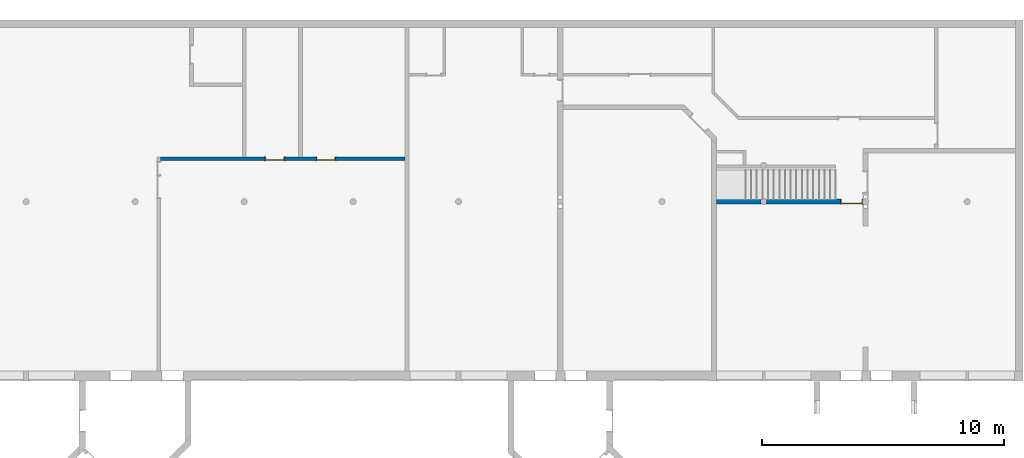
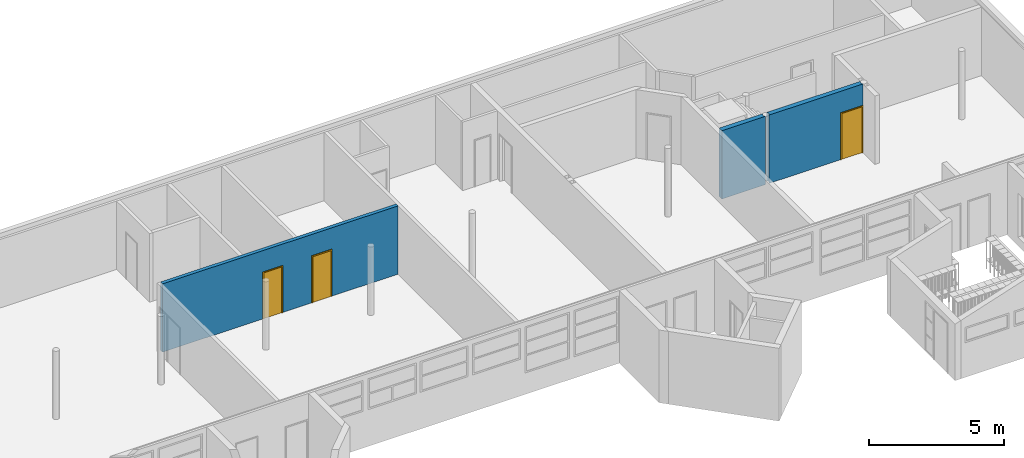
# One storey, part 11 of 25: 3 doors, 2 walls, 3 openings.
"""IFC2X3 building model written with IfcOpenShell, lengths in millimetres."""

from ifc_helpers import new_model, entity, si_unit, converted_unit, derived_unit, money_unit, direction, frame, origin_with_axes, place, context, subcontext, project, spatial, faceted_brep, source, transform, mapped, material, type_object, element, fill, save


model = new_model("IFC2X3")

# Units and contexts
model_context = context("Model", 3, precision=0.01, world=origin_with_axes(), true_north=direction((0.0, 1.0)))
body_context = subcontext(model_context, "Body", "Model", "MODEL_VIEW")
ifc_project = project(units=[si_unit("LENGTHUNIT", "METRE", prefix="MILLI"), si_unit("AREAUNIT", "SQUARE_METRE"), si_unit("VOLUMEUNIT", "CUBIC_METRE"), converted_unit("PLANEANGLEUNIT", "DEGREE", entity("IfcPlaneAngleMeasure", 0.0174532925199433), si_unit("PLANEANGLEUNIT", "RADIAN"), dimensions=[0, 0, 0, 0, 0, 0, 0]), money_unit("USD"), converted_unit("TIMEUNIT", "Year", entity("IfcTimeMeasure", 31557600.0), si_unit("TIMEUNIT", "SECOND"), dimensions=[0, 0, 1, 0, 0, 0, 0]), si_unit("MASSUNIT", "GRAM", prefix="KILO"), si_unit("THERMODYNAMICTEMPERATUREUNIT", "DEGREE_CELSIUS"), si_unit("LUMINOUSINTENSITYUNIT", "LUMEN"), si_unit("ENERGYUNIT", "JOULE", prefix="MEGA"), derived_unit("THERMALCONDUCTANCEUNIT", [(si_unit("POWERUNIT", "WATT"), 1), (si_unit("LENGTHUNIT", "METRE"), -1), (si_unit("THERMODYNAMICTEMPERATUREUNIT", "KELVIN"), -1)]), derived_unit("SPECIFICHEATCAPACITYUNIT", [(si_unit("ENERGYUNIT", "JOULE"), 1), (si_unit("MASSUNIT", "GRAM", prefix="KILO"), -1), (si_unit("THERMODYNAMICTEMPERATUREUNIT", "KELVIN"), -1)]), derived_unit("MASSDENSITYUNIT", [(si_unit("MASSUNIT", "GRAM", prefix="KILO"), 1), (si_unit("VOLUMEUNIT", "CUBIC_METRE"), -1)])], contexts=[model_context])

# Site, building, storey
site_placement = place(None, origin_with_axes())
site = spatial("IfcSite", under=ifc_project, at=site_placement, Name="Site", CompositionType="ELEMENT")
building_placement = place(site_placement, origin_with_axes())
building = spatial("IfcBuilding", under=site, at=building_placement, Name="Building", CompositionType="ELEMENT")
storey_placement = place(building_placement, origin_with_axes())
storey = spatial("IfcBuildingStorey", under=building, at=storey_placement, Name="U ETG", CompositionType="ELEMENT", Elevation=0.0)

# Wall, openings, doors
ifc_material = material(Name="GENERIC - INTERNAL FILLER")
wall_type_1 = type_object("IfcWallType", Name="GENERIC - INTERNAL FILLER 150", PredefinedType="NOTDEFINED")
wall_1_placement = place(storey_placement, frame((37050.0, 16199.5709291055, 0.0), z_axis=(0.0, 0.0, 1.0), x_axis=(1.0, 0.0, 0.0)))
wall_1 = element("IfcWall", 1, at=wall_1_placement, inside=storey, type_object=wall_type_1, material=ifc_material, Name="SW - 001", context=body_context, shape_type="Brep", body=[
    faceted_brep([(6427.551484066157, 150.0000000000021, 2100.0), (6427.551484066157, 150.0000000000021, 0.0), (5116.371182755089, 150.0000000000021, 0.0), (5116.371182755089, 150.0000000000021, 2100.0), (4316.371182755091, 150.0000000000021, 2100.0), (4316.371182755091, 149.9999999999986, 0.0), (0.0, 149.9999999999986, 0.0), (0.0, 149.9999999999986, 3100.0), (10100.35609034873, 150.0000000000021, 3100.0), (10100.35609034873, 150.0000000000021, 0.0), (7227.551484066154, 150.0000000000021, 0.0), (7227.551484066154, 150.0000000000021, 2100.0), (6427.551484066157, 0.0, 2100.0), (6427.551484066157, 0.0, 0.0), (5116.371182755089, 0.0, 0.0), (5116.371182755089, 0.0, 2100.0), (4316.371182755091, 0.0, 2100.0), (4316.371182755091, 0.0, 0.0), (0.0, 0.0, 0.0), (0.0, 0.0, 3100.0), (10100.35609034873, 0.0, 3100.0), (10100.35609034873, 0.0, 0.0), (7227.551484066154, 0.0, 0.0), (7227.551484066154, 0.0, 2100.0)], [[[0, 1, 2, 3, 4, 5, 6, 7, 8, 9, 10, 11]], [[1, 0, 12, 13]], [[1, 13, 14, 2]], [[2, 14, 15, 3]], [[3, 15, 16, 4]], [[4, 16, 17, 5]], [[17, 18, 6, 5]], [[18, 19, 7, 6]], [[7, 19, 20, 8]], [[8, 20, 21, 9]], [[22, 10, 9, 21]], [[11, 10, 22, 23]], [[0, 11, 23, 12]], [[23, 22, 21, 20, 19, 18, 17, 16, 15, 14, 13, 12]]]),
])
opening_1_placement = place(wall_1_placement, frame((4716.37118275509, 0.0, 0.0), z_axis=(0.0, 0.0, 1.0), x_axis=(1.0, 0.0, 0.0)))
opening_1 = element("IfcOpeningElement", 2, at=opening_1_placement, cuts=wall_1, Name="DOO - 002", context=body_context, shape_type="Brep", body=[
    faceted_brep([(-399.9999999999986, 0.0, 2100.0), (399.9999999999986, 0.0, 2100.0), (399.9999999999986, 149.9999999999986, 2100.0), (-399.9999999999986, 149.9999999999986, 2100.0), (399.9999999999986, 0.0, 0.0), (-399.9999999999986, 0.0, 0.0), (-436.9999999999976, 0.0, 0.0), (-436.9999999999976, 0.0, 2137.0), (436.9999999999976, 0.0, 2137.0), (436.9999999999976, 0.0, 0.0), (399.9999999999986, 149.9999999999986, 0.0), (436.9999999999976, 149.9999999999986, 0.0), (436.9999999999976, 149.9999999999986, 2137.0), (-436.9999999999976, 150.0000000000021, 2137.0), (-436.9999999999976, 149.9999999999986, 0.0), (-399.9999999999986, 149.9999999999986, 0.0), (-399.9999999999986, -1.000000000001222, 0.0), (-436.9999999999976, -1.000000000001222, 0.0), (-436.9999999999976, -1.000000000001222, 2137.0), (436.9999999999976, -1.000000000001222, 2137.0), (436.9999999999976, -1.000000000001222, 0.0), (399.9999999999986, -1.000000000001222, 0.0), (-399.9999999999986, 151.000000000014, 0.0), (399.9999999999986, 151.000000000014, 0.0), (436.9999999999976, 151.000000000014, 0.0), (436.9999999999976, 151.000000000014, 2137.0), (-436.9999999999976, 151.0000000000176, 2137.0), (-436.9999999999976, 151.000000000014, 0.0), (-399.9999999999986, -1.000000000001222, 2100.0), (399.9999999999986, -1.000000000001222, 2100.0)], [[[0, 1, 2, 3]], [[4, 1, 0, 5, 6, 7, 8, 9]], [[1, 4, 10, 2]], [[3, 2, 10, 11, 12, 13, 14, 15]], [[5, 0, 3, 15]], [[5, 16, 17, 6]], [[7, 6, 17, 18]], [[8, 7, 18, 19]], [[9, 8, 19, 20]], [[21, 4, 9, 20]], [[16, 5, 15, 22, 23, 10, 4, 21]], [[10, 23, 24, 11]], [[12, 11, 24, 25]], [[13, 12, 25, 26]], [[14, 13, 26, 27]], [[22, 15, 14, 27]], [[28, 29, 21, 20, 19, 18, 17, 16]], [[23, 22, 27, 26, 25, 24]], [[28, 16, 21, 29]]]),
])
opening_2_placement = place(wall_1_placement, frame((6827.551484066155, 0.0, 0.0), z_axis=(0.0, 0.0, 1.0), x_axis=(1.0, 0.0, 0.0)))
opening_2 = element("IfcOpeningElement", 3, at=opening_2_placement, cuts=wall_1, Name="DOO - 002", context=body_context, shape_type="Brep", body=[
    faceted_brep([(-399.9999999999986, 0.0, 2100.0), (399.9999999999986, 0.0, 2100.0), (399.9999999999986, 149.9999999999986, 2100.0), (-399.9999999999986, 149.9999999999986, 2100.0), (399.9999999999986, 0.0, 0.0), (-399.9999999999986, 0.0, 0.0), (-436.9999999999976, 0.0, 0.0), (-436.9999999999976, 0.0, 2137.0), (436.9999999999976, 0.0, 2137.0), (436.9999999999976, 0.0, 0.0), (399.9999999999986, 149.9999999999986, 0.0), (436.9999999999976, 149.9999999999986, 0.0), (436.9999999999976, 149.9999999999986, 2137.0), (-436.9999999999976, 150.0000000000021, 2137.0), (-436.9999999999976, 149.9999999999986, 0.0), (-399.9999999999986, 149.9999999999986, 0.0), (-399.9999999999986, -1.000000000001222, 0.0), (-436.9999999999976, -1.000000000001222, 0.0), (-436.9999999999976, -1.000000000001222, 2137.0), (436.9999999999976, -1.000000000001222, 2137.0), (436.9999999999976, -1.000000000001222, 0.0), (399.9999999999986, -1.000000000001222, 0.0), (-399.9999999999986, 151.0000000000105, 0.0), (399.9999999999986, 151.0000000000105, 0.0), (436.9999999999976, 151.0000000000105, 0.0), (436.9999999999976, 151.0000000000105, 2137.0), (-436.9999999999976, 151.000000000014, 2137.0), (-436.9999999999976, 151.0000000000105, 0.0), (-399.9999999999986, -1.000000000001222, 2100.0), (399.9999999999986, -1.000000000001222, 2100.0)], [[[0, 1, 2, 3]], [[4, 1, 0, 5, 6, 7, 8, 9]], [[1, 4, 10, 2]], [[3, 2, 10, 11, 12, 13, 14, 15]], [[5, 0, 3, 15]], [[5, 16, 17, 6]], [[7, 6, 17, 18]], [[8, 7, 18, 19]], [[9, 8, 19, 20]], [[21, 4, 9, 20]], [[16, 5, 15, 22, 23, 10, 4, 21]], [[10, 23, 24, 11]], [[12, 11, 24, 25]], [[13, 12, 25, 26]], [[14, 13, 26, 27]], [[22, 15, 14, 27]], [[28, 29, 21, 20, 19, 18, 17, 16]], [[23, 22, 27, 26, 25, 24]], [[28, 16, 21, 29]]]),
])
door_style_1 = type_object("IfcDoorStyle", Name="Dør", ConstructionType="NOTDEFINED", OperationType="SINGLE_SWING_LEFT", ParameterTakesPrecedence=False, Sizeable=False)
shared_shape_1 = source(origin_with_axes(), body_context, "Body", "Brep", [
    faceted_brep([(400.0, -115.0, 0.0), (400.0, -150.0, 0.0), (375.0, -150.0, 0.0), (375.0, -115.0, 0.0), (400.0, -115.0000000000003, 2100.0), (400.0, -150.0000000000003, 2100.0), (375.0, -150.0000000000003, 2075.0), (375.0, -115.0000000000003, 2075.0)], [[[0, 1, 2, 3]], [[4, 5, 1, 0]], [[1, 5, 6, 2]], [[3, 2, 6, 7]], [[0, 3, 7, 4]], [[7, 6, 5, 4]]]),
    faceted_brep([(-400.0, -115.0000000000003, 2100.0), (-400.0, -150.0000000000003, 2100.0), (-375.0, -150.0000000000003, 2075.0), (-375.0, -115.0000000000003, 2075.0), (-400.0, -115.0, 0.0), (-400.0, -150.0, 0.0), (-375.0, -150.0, 0.0), (-375.0, -115.0, 0.0)], [[[0, 1, 2, 3]], [[4, 5, 1, 0]], [[1, 5, 6, 2]], [[3, 2, 6, 7]], [[0, 3, 7, 4]], [[7, 6, 5, 4]]]),
    faceted_brep([(375.0, -115.0000000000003, 2075.0), (375.0, -150.0000000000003, 2075.0), (-375.0, -150.0000000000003, 2075.0), (-375.0, -115.0000000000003, 2075.0), (400.0, -115.0000000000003, 2100.0), (400.0, -150.0000000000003, 2100.0), (-400.0, -150.0000000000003, 2100.0), (-400.0, -115.0000000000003, 2100.0)], [[[0, 1, 2, 3]], [[4, 5, 1, 0]], [[1, 5, 6, 2]], [[3, 2, 6, 7]], [[0, 3, 7, 4]], [[7, 6, 5, 4]]]),
    faceted_brep([(437.0, -169.0, 0.0), (387.0, -169.0, 0.0), (387.0, -150.0, 0.0), (437.0, -150.0, 0.0), (437.0, -169.0000000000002, 2137.0), (387.0, -169.0000000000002, 2087.0), (387.0, -150.0000000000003, 2087.0), (437.0, -150.0000000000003, 2137.0)], [[[0, 1, 2, 3]], [[0, 4, 5, 1]], [[1, 5, 6, 2]], [[3, 2, 6, 7]], [[4, 0, 3, 7]], [[5, 4, 7, 6]]]),
    faceted_brep([(-437.0, -169.0000000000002, 2137.0), (-387.0, -169.0000000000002, 2087.0), (-387.0, -150.0000000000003, 2087.0), (-437.0, -150.0000000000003, 2137.0), (-437.0, -169.0, 0.0), (-387.0, -169.0, 0.0), (-387.0, -150.0, 0.0), (-437.0, -150.0, 0.0)], [[[0, 1, 2, 3]], [[0, 4, 5, 1]], [[1, 5, 6, 2]], [[3, 2, 6, 7]], [[4, 0, 3, 7]], [[5, 4, 7, 6]]]),
    faceted_brep([(437.0, -169.0000000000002, 2137.0), (387.0, -169.0000000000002, 2087.0), (387.0, -150.0000000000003, 2087.0), (437.0, -150.0000000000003, 2137.0), (-437.0, -169.0000000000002, 2137.0), (-387.0, -169.0000000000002, 2087.0), (-387.0, -150.0000000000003, 2087.0), (-437.0, -150.0000000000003, 2137.0)], [[[0, 1, 2, 3]], [[0, 4, 5, 1]], [[1, 5, 6, 2]], [[3, 2, 6, 7]], [[4, 0, 3, 7]], [[5, 4, 7, 6]]]),
    faceted_brep([(437.0, 19.0, 0.0), (437.0, 0.0, 0.0), (387.0, 0.0, 0.0), (387.0, 19.0, 0.0), (437.0, 18.99999999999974, 2137.0), (437.0, 0.0, 2137.0), (387.0, 0.0, 2087.0), (387.0, 18.99999999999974, 2087.0)], [[[0, 1, 2, 3]], [[4, 5, 1, 0]], [[1, 5, 6, 2]], [[3, 2, 6, 7]], [[0, 3, 7, 4]], [[7, 6, 5, 4]]]),
    faceted_brep([(-437.0, 18.99999999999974, 2137.0), (-437.0, 0.0, 2137.0), (-387.0, 0.0, 2087.0), (-387.0, 18.99999999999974, 2087.0), (-437.0, 19.0, 0.0), (-437.0, 0.0, 0.0), (-387.0, 0.0, 0.0), (-387.0, 19.0, 0.0)], [[[0, 1, 2, 3]], [[4, 5, 1, 0]], [[1, 5, 6, 2]], [[3, 2, 6, 7]], [[0, 3, 7, 4]], [[7, 6, 5, 4]]]),
    faceted_brep([(437.0000000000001, 18.99999999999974, 2137.0), (437.0000000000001, 0.0, 2137.0), (387.0, 0.0, 2087.0), (387.0, 18.99999999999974, 2087.0), (-437.0000000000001, 18.99999999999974, 2137.0), (-437.0000000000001, 0.0, 2137.0), (-387.0, 0.0, 2087.0), (-387.0, 18.99999999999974, 2087.0)], [[[0, 1, 2, 3]], [[4, 5, 1, 0]], [[1, 5, 6, 2]], [[3, 2, 6, 7]], [[0, 3, 7, 4]], [[7, 6, 5, 4]]]),
    faceted_brep([(400.0, 0.0, 0.0), (400.0, -115.0, 0.0), (360.0000000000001, -115.0, 0.0), (360.0000000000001, 0.0, 0.0), (400.0, 0.0, 2060.0), (400.0, -115.0, 2060.0), (360.0000000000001, -115.0, 2060.0), (360.0000000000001, 0.0, 2060.0)], [[[0, 1, 2, 3]], [[4, 5, 1, 0]], [[1, 5, 6, 2]], [[3, 2, 6, 7]], [[0, 3, 7, 4]], [[7, 6, 5, 4]]]),
    faceted_brep([(-400.0, 0.0, 0.0), (-400.0, -115.0, 0.0), (-400.0, -115.0, 2060.0), (-400.0, 0.0, 2060.0), (-360.0000000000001, 0.0, 0.0), (-360.0000000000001, -115.0, 0.0), (-360.0000000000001, -115.0, 2060.0), (-360.0000000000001, 0.0, 2060.0)], [[[0, 1, 2, 3]], [[4, 5, 1, 0]], [[1, 5, 6, 2]], [[3, 2, 6, 7]], [[0, 3, 7, 4]], [[7, 6, 5, 4]]]),
    faceted_brep([(400.0, 0.0, 2100.0), (400.0, -115.0, 2100.0), (400.0, -115.0, 2060.0), (400.0, 0.0, 2060.0), (-400.0, 0.0, 2100.0), (-400.0, -115.0, 2100.0), (-400.0, -115.0, 2060.0), (-360.0000000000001, -115.0, 2060.0), (360.0000000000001, -115.0, 2060.0), (360.0000000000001, 0.0, 2060.0), (-360.0000000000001, 0.0, 2060.0), (-400.0, 0.0, 2060.0)], [[[0, 1, 2, 3]], [[4, 5, 1, 0]], [[1, 5, 6, 7, 8, 2]], [[3, 2, 8, 9]], [[0, 3, 9, 10, 11, 4]], [[11, 6, 5, 4]], [[10, 7, 6, 11]], [[9, 8, 7, 10]]]),
    faceted_brep([(-359.9999999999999, 0.0, 0.0), (360.0000000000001, 0.0, 0.0), (360.0000000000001, -40.0, 0.0), (-359.9999999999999, -40.0, 0.0), (-359.9999999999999, 0.0, 2060.0), (360.0000000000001, 0.0, 2060.0), (360.0000000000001, -40.00000000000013, 2060.0), (-359.9999999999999, -40.00000000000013, 2060.0)], [[[0, 1, 2, 3]], [[0, 4, 5, 1]], [[1, 5, 6, 2]], [[3, 2, 6, 7]], [[4, 0, 3, 7]], [[5, 4, 7, 6]]]),
])
door_1_placement = place(opening_1_placement, frame((399.9999999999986, 0.0, 0.0), z_axis=(0.0, 0.0, 1.0), x_axis=(-1.0, 0.0, 0.0)))
door_1 = element("IfcDoor", 4, at=door_1_placement, inside=storey, type_object=door_style_1, Name="DOO - 002", ObjectType="DOOR", OverallHeight=2100.0, OverallWidth=800.0, context=body_context, shape_type="MappedRepresentation", body=[
    mapped(shared_shape_1, transform((399.9999999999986, 0.0, 0.0))),
])
fill(opening_1, door_1)
door_2_placement = place(opening_2_placement, frame((399.9999999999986, 0.0, 0.0), z_axis=(0.0, 0.0, 1.0), x_axis=(-1.0, 0.0, 0.0)))
door_2 = element("IfcDoor", 5, at=door_2_placement, inside=storey, type_object=door_style_1, Name="DOO - 002", ObjectType="DOOR", OverallHeight=2100.0, OverallWidth=800.0, context=body_context, shape_type="MappedRepresentation", body=[
    mapped(shared_shape_1, transform((399.9999999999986, 0.0, 0.0))),
])
fill(opening_2, door_2)

# Wall, opening, door
wall_type_2 = type_object("IfcWallType", Name="GENERIC - INTERNAL FILLER 200", PredefinedType="NOTDEFINED")
wall_2_placement = place(storey_placement, frame((60003.50288425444, 14600.0, 0.0), z_axis=(0.0, 0.0, 1.0), x_axis=(1.0, 0.0, 0.0)))
wall_2 = element("IfcWall", 6, at=wall_2_placement, inside=storey, type_object=wall_type_2, material=ifc_material, Name="SW - 001", context=body_context, shape_type="Brep", body=[
    faceted_brep([(1868.560890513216, -2.27106469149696, 0.0), (1871.976295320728, -0.1250236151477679, 0.0), (1871.976295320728, -0.1250236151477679, 3100.0), (1868.560890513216, -2.27106469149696, 3100.0), (1856.497115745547, 0.0, 0.0), (1856.497115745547, -0.1250236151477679, 0.0), (1848.768180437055, -22.06377476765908, 0.0), (1833.876007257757, -45.76453261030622, 0.0), (1824.631126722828, -72.18488325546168, 0.0), (1821.497115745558, -100.0000000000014, 0.0), (1824.631126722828, -127.8151167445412, 0.0), (1833.876007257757, -154.2354673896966, 0.0), (1848.768180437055, -177.9362252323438, 0.0), (1868.560890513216, -197.7289353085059, 0.0), (1872.175269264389, -199.9999999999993, 0.0), (0.0, -199.9999999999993, 0.0), (0.0, 0.0, 0.0), (1856.497115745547, -0.1250236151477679, 3100.0), (1856.497115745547, 0.0, 3100.0), (0.0, 0.0, 3100.0), (0.0, -199.9999999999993, 3100.0), (1872.175269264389, -199.9999999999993, 3100.0), (1868.560890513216, -197.7289353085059, 3100.0), (1848.768180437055, -177.9362252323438, 3100.0), (1833.876007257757, -154.2354673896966, 3100.0), (1824.631126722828, -127.8151167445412, 3100.0), (1821.497115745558, -100.0000000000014, 3100.0), (1824.631126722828, -72.18488325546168, 3100.0), (1833.876007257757, -45.76453261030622, 3100.0), (1848.768180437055, -22.06377476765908, 3100.0)], [[[0, 1, 2, 3]], [[4, 5, 1, 0, 6, 7, 8, 9, 10, 11, 12, 13, 14, 15, 16]], [[5, 17, 2, 1]], [[2, 17, 18, 19, 20, 21, 22, 23, 24, 25, 26, 27, 28, 29, 3]], [[0, 3, 29, 6]], [[5, 4, 18, 17]], [[6, 29, 28, 7]], [[7, 28, 27, 8]], [[8, 27, 26, 9]], [[9, 26, 25, 10]], [[10, 25, 24, 11]], [[11, 24, 23, 12]], [[12, 23, 22, 13]], [[13, 22, 21, 14]], [[15, 14, 21, 20]], [[16, 15, 20, 19]], [[19, 18, 4, 16]]]),
    faceted_brep([(5125.92099232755, 0.0, 2100.0), (5125.92099232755, 0.0, 0.0), (2036.497115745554, 0.0, 0.0), (2036.497115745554, 0.0, 3100.0), (6046.497115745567, 0.0, 3100.0), (6046.497115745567, 0.0, 0.0), (6025.920992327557, 0.0, 0.0), (6025.920992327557, 0.0, 2100.0), (5125.92099232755, -199.9999999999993, 2100.0), (5125.92099232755, -199.9999999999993, 0.0), (2020.818962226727, -199.9999999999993, 0.0), (2024.4333409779, -197.7289353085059, 0.0), (2044.226051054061, -177.9362252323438, 0.0), (2059.118224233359, -154.2354673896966, 0.0), (2068.363104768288, -127.8151167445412, 0.0), (2071.497115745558, -100.0000000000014, 0.0), (2068.363104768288, -72.18488325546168, 0.0), (2059.118224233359, -45.76453261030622, 0.0), (2044.226051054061, -22.06377476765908, 0.0), (2024.4333409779, -2.27106469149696, 0.0), (2021.017936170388, -0.1250236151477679, 0.0), (2036.497115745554, -0.1250236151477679, 0.0), (2036.497115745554, -0.1250236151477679, 3100.0), (6033.87600725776, -45.76453261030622, 3100.0), (6046.497115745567, -25.67815351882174, 3100.0), (2021.017936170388, -0.1250236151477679, 3100.0), (2024.4333409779, -2.27106469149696, 3100.0), (2044.226051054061, -22.06377476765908, 3100.0), (2059.118224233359, -45.76453261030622, 3100.0), (2068.363104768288, -72.18488325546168, 3100.0), (2071.497115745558, -100.0000000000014, 3100.0), (2068.363104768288, -127.8151167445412, 3100.0), (2059.118224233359, -154.2354673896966, 3100.0), (2044.226051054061, -177.9362252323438, 3100.0), (2024.4333409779, -197.7289353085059, 3100.0), (2020.818962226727, -199.9999999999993, 3100.0), (6046.497115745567, -199.9999999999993, 3100.0), (6046.497115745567, -174.3218464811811, 3100.0), (6033.87600725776, -154.2354673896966, 3100.0), (6024.631126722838, -127.8151167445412, 3100.0), (6021.497115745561, -100.0000000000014, 3100.0), (6024.631126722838, -72.18488325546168, 3100.0), (6046.497115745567, -25.67815351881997, 0.0), (6025.920992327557, -68.49865914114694, 0.0), (6033.87600725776, -45.76453261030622, 0.0), (6025.920992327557, -68.49865914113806, 2100.0), (6024.631126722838, -72.18488325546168, 2100.0), (6021.497115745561, -100.0000000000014, 2100.0), (6024.631126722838, -127.8151167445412, 2100.0), (6025.920992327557, -131.5013408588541, 2100.0), (6025.920992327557, -199.9999999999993, 2100.0), (6025.920992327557, -199.9999999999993, 0.0), (6046.497115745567, -199.9999999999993, 0.0), (6046.497115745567, -174.321846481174, 0.0), (6033.87600725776, -154.2354673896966, 0.0), (6025.920992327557, -131.5013408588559, 0.0)], [[[0, 1, 2, 3, 4, 5, 6, 7]], [[1, 0, 8, 9]], [[1, 9, 10, 11, 12, 13, 14, 15, 16, 17, 18, 19, 20, 21, 2]], [[22, 3, 2, 21]], [[23, 24, 4, 3, 22, 25, 26, 27, 28, 29, 30, 31, 32, 33, 34, 35, 36, 37, 38, 39, 40, 41]], [[24, 42, 5, 4]], [[43, 6, 5, 42, 44]], [[7, 6, 43, 45]], [[0, 7, 45, 46, 47, 48, 49, 50, 8]], [[50, 51, 52, 36, 35, 10, 9, 8]], [[35, 34, 11, 10]], [[34, 33, 12, 11]], [[33, 32, 13, 12]], [[32, 31, 14, 13]], [[31, 30, 15, 14]], [[30, 29, 16, 15]], [[29, 28, 17, 16]], [[28, 27, 18, 17]], [[27, 26, 19, 18]], [[25, 20, 19, 26]], [[25, 22, 21, 20]], [[42, 24, 23, 44]], [[53, 37, 36, 52]], [[38, 37, 53, 54]], [[49, 48, 39, 38, 54, 55]], [[48, 47, 40, 39]], [[47, 46, 41, 40]], [[45, 43, 44, 23, 41, 46]], [[49, 55, 51, 50]], [[51, 55, 54, 53, 52]]]),
])
opening_3_placement = place(wall_2_placement, frame((5575.920992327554, 0.0, 0.0), z_axis=(0.0, 0.0, 1.0), x_axis=(1.0, 0.0, 0.0)))
opening_3 = element("IfcOpeningElement", 7, at=opening_3_placement, cuts=wall_2, Name="DOO - 002", context=body_context, shape_type="Brep", body=[
    faceted_brep([(-450.0000000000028, -199.9999999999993, 2100.0), (450.0000000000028, -199.9999999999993, 2100.0), (450.0000000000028, 0.0, 2100.0), (-450.0000000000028, 0.0, 2100.0), (450.0000000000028, -199.9999999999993, 0.0), (-450.0000000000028, -199.9999999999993, 0.0), (-486.9999999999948, -199.9999999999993, 0.0), (-486.9999999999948, -199.9999999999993, 2137.0), (486.9999999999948, -199.9999999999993, 2137.0), (486.9999999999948, -199.9999999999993, 0.0), (450.0000000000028, 0.0, 0.0), (486.9999999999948, 0.0, 0.0), (486.9999999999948, 0.0, 2137.0), (-486.9999999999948, 0.0, 2137.0), (-486.9999999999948, 0.0, 0.0), (-450.0000000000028, 0.0, 0.0), (-450.0000000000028, -200.9999999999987, 0.0), (-486.9999999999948, -200.9999999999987, 0.0), (-486.9999999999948, -200.9999999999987, 2137.0), (486.9999999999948, -200.9999999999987, 2137.0), (486.9999999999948, -200.9999999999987, 0.0), (450.0000000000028, -200.9999999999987, 0.0), (-450.0000000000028, 0.9999999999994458, 0.0), (450.0000000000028, 0.9999999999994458, 0.0), (486.9999999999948, 0.9999999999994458, 0.0), (486.9999999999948, 1.000000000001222, 2137.0), (-486.9999999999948, 1.000000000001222, 2137.0), (-486.9999999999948, 0.9999999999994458, 0.0), (-450.0000000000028, -200.9999999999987, 2100.0), (450.0000000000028, -200.9999999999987, 2100.0)], [[[0, 1, 2, 3]], [[4, 1, 0, 5, 6, 7, 8, 9]], [[1, 4, 10, 2]], [[3, 2, 10, 11, 12, 13, 14, 15]], [[5, 0, 3, 15]], [[5, 16, 17, 6]], [[7, 6, 17, 18]], [[8, 7, 18, 19]], [[9, 8, 19, 20]], [[21, 4, 9, 20]], [[16, 5, 15, 22, 23, 10, 4, 21]], [[10, 23, 24, 11]], [[12, 11, 24, 25]], [[13, 12, 25, 26]], [[14, 13, 26, 27]], [[22, 15, 14, 27]], [[28, 29, 21, 20, 19, 18, 17, 16]], [[23, 22, 27, 26, 25, 24]], [[28, 16, 21, 29]]]),
])
door_style_2 = type_object("IfcDoorStyle", Name="Dør", ConstructionType="NOTDEFINED", OperationType="SINGLE_SWING_LEFT", ParameterTakesPrecedence=False, Sizeable=False)
shared_shape_2 = source(origin_with_axes(), body_context, "Body", "Brep", [
    faceted_brep([(450.0, -115.0, 0.0), (450.0, -200.0, 0.0), (425.0, -200.0, 0.0), (425.0, -115.0, 0.0), (450.0, -115.0000000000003, 2100.0), (450.0, -200.0000000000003, 2100.0), (425.0, -200.0000000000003, 2075.0), (425.0, -115.0000000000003, 2075.0)], [[[0, 1, 2, 3]], [[4, 5, 1, 0]], [[1, 5, 6, 2]], [[3, 2, 6, 7]], [[0, 3, 7, 4]], [[7, 6, 5, 4]]]),
    faceted_brep([(-450.0, -115.0000000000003, 2100.0), (-450.0, -200.0000000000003, 2100.0), (-425.0, -200.0000000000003, 2075.0), (-425.0, -115.0000000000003, 2075.0), (-450.0, -115.0, 0.0), (-450.0, -200.0, 0.0), (-425.0, -200.0, 0.0), (-425.0, -115.0, 0.0)], [[[0, 1, 2, 3]], [[4, 5, 1, 0]], [[1, 5, 6, 2]], [[3, 2, 6, 7]], [[0, 3, 7, 4]], [[7, 6, 5, 4]]]),
    faceted_brep([(425.0, -115.0000000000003, 2075.0), (425.0, -200.0000000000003, 2075.0), (-425.0, -200.0000000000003, 2075.0), (-425.0, -115.0000000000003, 2075.0), (450.0, -115.0000000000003, 2100.0), (450.0, -200.0000000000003, 2100.0), (-450.0, -200.0000000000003, 2100.0), (-450.0, -115.0000000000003, 2100.0)], [[[0, 1, 2, 3]], [[4, 5, 1, 0]], [[1, 5, 6, 2]], [[3, 2, 6, 7]], [[0, 3, 7, 4]], [[7, 6, 5, 4]]]),
    faceted_brep([(487.0, -219.0, 0.0), (437.0, -219.0, 0.0), (437.0, -200.0, 0.0), (487.0, -200.0, 0.0), (487.0, -219.0000000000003, 2137.0), (437.0, -219.0000000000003, 2087.0), (437.0, -200.0000000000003, 2087.0), (487.0, -200.0000000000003, 2137.0)], [[[0, 1, 2, 3]], [[0, 4, 5, 1]], [[1, 5, 6, 2]], [[3, 2, 6, 7]], [[4, 0, 3, 7]], [[5, 4, 7, 6]]]),
    faceted_brep([(-487.0, -219.0000000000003, 2137.0), (-437.0, -219.0000000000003, 2087.0), (-437.0, -200.0000000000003, 2087.0), (-487.0, -200.0000000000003, 2137.0), (-487.0, -219.0, 0.0), (-437.0, -219.0, 0.0), (-437.0, -200.0, 0.0), (-487.0, -200.0, 0.0)], [[[0, 1, 2, 3]], [[0, 4, 5, 1]], [[1, 5, 6, 2]], [[3, 2, 6, 7]], [[4, 0, 3, 7]], [[5, 4, 7, 6]]]),
    faceted_brep([(487.0, -219.0000000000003, 2137.0), (437.0, -219.0000000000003, 2087.0), (437.0, -200.0000000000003, 2087.0), (487.0, -200.0000000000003, 2137.0), (-487.0, -219.0000000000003, 2137.0), (-437.0, -219.0000000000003, 2087.0), (-437.0, -200.0000000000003, 2087.0), (-487.0, -200.0000000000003, 2137.0)], [[[0, 1, 2, 3]], [[0, 4, 5, 1]], [[1, 5, 6, 2]], [[3, 2, 6, 7]], [[4, 0, 3, 7]], [[5, 4, 7, 6]]]),
    faceted_brep([(487.0, 19.0, 0.0), (487.0, 0.0, 0.0), (437.0, 0.0, 0.0), (437.0, 19.0, 0.0), (487.0, 18.99999999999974, 2137.0), (487.0, 0.0, 2137.0), (437.0, 0.0, 2087.0), (437.0, 18.99999999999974, 2087.0)], [[[0, 1, 2, 3]], [[4, 5, 1, 0]], [[1, 5, 6, 2]], [[3, 2, 6, 7]], [[0, 3, 7, 4]], [[7, 6, 5, 4]]]),
    faceted_brep([(-487.0, 18.99999999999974, 2137.0), (-487.0, 0.0, 2137.0), (-437.0, 0.0, 2087.0), (-437.0, 18.99999999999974, 2087.0), (-487.0, 19.0, 0.0), (-487.0, 0.0, 0.0), (-437.0, 0.0, 0.0), (-437.0, 19.0, 0.0)], [[[0, 1, 2, 3]], [[4, 5, 1, 0]], [[1, 5, 6, 2]], [[3, 2, 6, 7]], [[0, 3, 7, 4]], [[7, 6, 5, 4]]]),
    faceted_brep([(487.0, 18.99999999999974, 2137.0), (487.0, 0.0, 2137.0), (437.0, 0.0, 2087.0), (437.0, 18.99999999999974, 2087.0), (-487.0, 18.99999999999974, 2137.0), (-487.0, 0.0, 2137.0), (-437.0, 0.0, 2087.0), (-437.0, 18.99999999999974, 2087.0)], [[[0, 1, 2, 3]], [[4, 5, 1, 0]], [[1, 5, 6, 2]], [[3, 2, 6, 7]], [[0, 3, 7, 4]], [[7, 6, 5, 4]]]),
    faceted_brep([(450.0, 0.0, 0.0), (450.0, -115.0, 0.0), (410.0000000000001, -115.0, 0.0), (410.0000000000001, 0.0, 0.0), (450.0, 0.0, 2060.0), (450.0, -115.0, 2060.0), (410.0000000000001, -115.0, 2060.0), (410.0000000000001, 0.0, 2060.0)], [[[0, 1, 2, 3]], [[4, 5, 1, 0]], [[1, 5, 6, 2]], [[3, 2, 6, 7]], [[0, 3, 7, 4]], [[7, 6, 5, 4]]]),
    faceted_brep([(-450.0, 0.0, 0.0), (-450.0, -115.0, 0.0), (-450.0, -115.0, 2060.0), (-450.0, 0.0, 2060.0), (-410.0000000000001, 0.0, 0.0), (-410.0000000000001, -115.0, 0.0), (-410.0000000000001, -115.0, 2060.0), (-410.0000000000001, 0.0, 2060.0)], [[[0, 1, 2, 3]], [[4, 5, 1, 0]], [[1, 5, 6, 2]], [[3, 2, 6, 7]], [[0, 3, 7, 4]], [[7, 6, 5, 4]]]),
    faceted_brep([(450.0, 0.0, 2100.0), (450.0, -115.0, 2100.0), (450.0, -115.0, 2060.0), (450.0, 0.0, 2060.0), (-450.0, 0.0, 2100.0), (-450.0, -115.0, 2100.0), (-450.0, -115.0, 2060.0), (-410.0000000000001, -115.0, 2060.0), (410.0000000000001, -115.0, 2060.0), (410.0000000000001, 0.0, 2060.0), (-410.0000000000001, 0.0, 2060.0), (-450.0, 0.0, 2060.0)], [[[0, 1, 2, 3]], [[4, 5, 1, 0]], [[1, 5, 6, 7, 8, 2]], [[3, 2, 8, 9]], [[0, 3, 9, 10, 11, 4]], [[11, 6, 5, 4]], [[10, 7, 6, 11]], [[9, 8, 7, 10]]]),
    faceted_brep([(-409.9999999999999, 0.0, 0.0), (410.0000000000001, 0.0, 0.0), (410.0000000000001, -40.0, 0.0), (-409.9999999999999, -40.0, 0.0), (-409.9999999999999, 0.0, 2060.0), (410.0000000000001, 0.0, 2060.0), (410.0000000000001, -40.00000000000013, 2060.0), (-409.9999999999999, -40.00000000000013, 2060.0)], [[[0, 1, 2, 3]], [[0, 4, 5, 1]], [[1, 5, 6, 2]], [[3, 2, 6, 7]], [[4, 0, 3, 7]], [[5, 4, 7, 6]]]),
])
door_3_placement = place(opening_3_placement, frame((450.0000000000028, 0.0, 0.0), z_axis=(0.0, 0.0, 1.0), x_axis=(-1.0, 0.0, 0.0)))
door_3 = element("IfcDoor", 8, at=door_3_placement, inside=storey, type_object=door_style_2, Name="DOO - 002", ObjectType="DOOR", OverallHeight=2100.0, OverallWidth=900.0, context=body_context, shape_type="MappedRepresentation", body=[
    mapped(shared_shape_2, transform((450.0000000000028, 199.9999999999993, 0.0))),
])
fill(opening_3, door_3)

save(model, "model.ifc")
